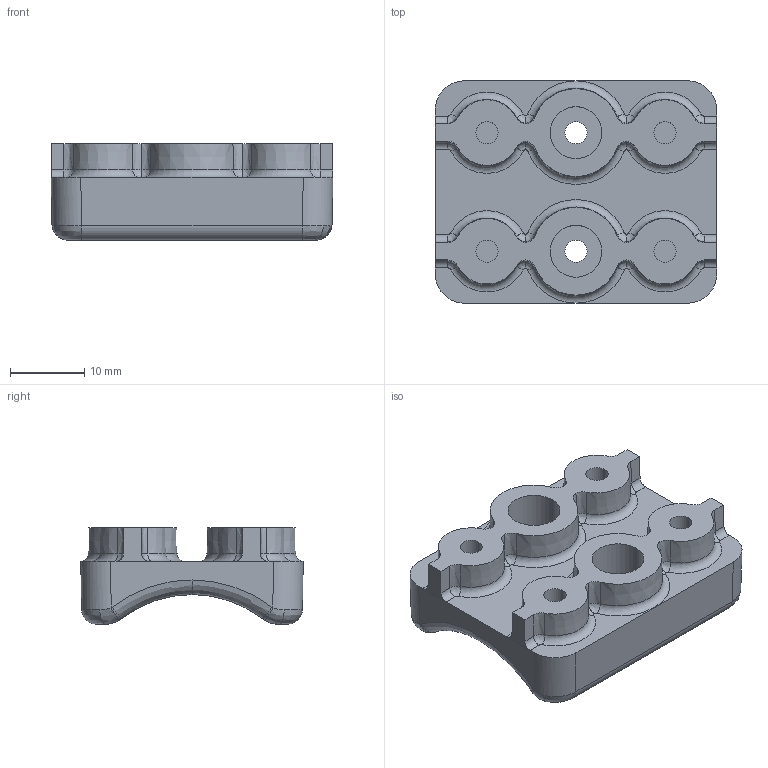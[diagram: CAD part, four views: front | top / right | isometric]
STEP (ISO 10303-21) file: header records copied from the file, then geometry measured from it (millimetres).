
FILE_DESCRIPTION (( 'STEP AP203' ), '1' );
FILE_NAME ('19K Vibration Mount.STEP', '2016-06-14T18:59:40', ( '' ), ( '' ), 'SwSTEP 2.0', 'SolidWorks 2014', '' );
FILE_SCHEMA (( 'CONFIG_CONTROL_DESIGN' ));
Length unit declared in the file: millimetre
Products named in the file (1): 19K Vibration Mount
Bounding box: 38 x 30 x 13 mm (x, y, z)
Volume: 6982.2 mm3; surface area: 5028.3 mm2
Topology: 1 solids, 1 shells, 189 faces, 474 edges, 297 vertices
Faces by surface type: bspline 66, plane 62, cylinder 37, cone 12, torus 12
Entity records: 7035 total; most frequent: CARTESIAN_POINT 3000, ORIENTED_EDGE 948, DIRECTION 667, EDGE_CURVE 474, VERTEX_POINT 297, AXIS2_PLACEMENT_3D 248, EDGE_LOOP 203, ADVANCED_FACE 189
